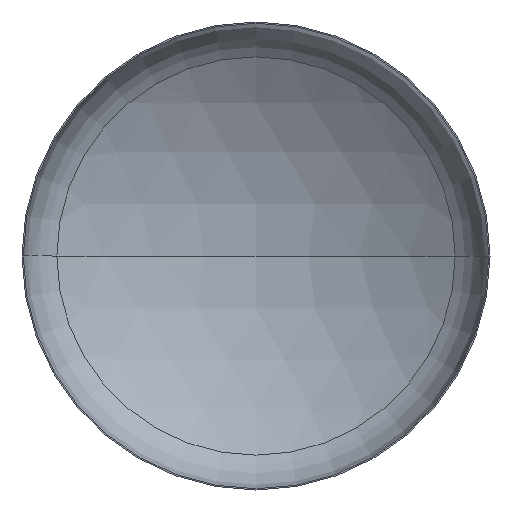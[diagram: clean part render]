
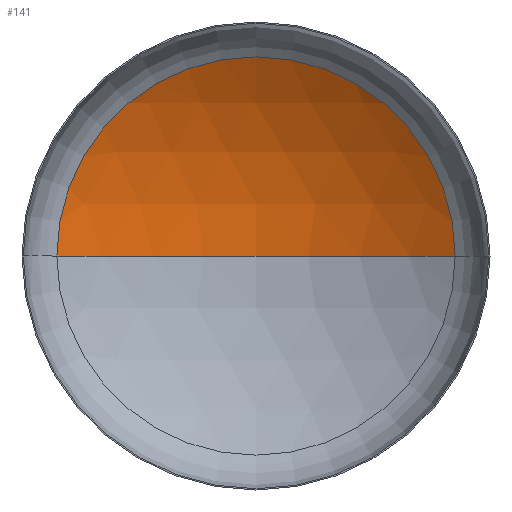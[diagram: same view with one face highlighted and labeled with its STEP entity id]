
A CAD part, front view. The second image highlights one B-rep face of the part: STEP entity #141.
In plain terms, the highlighted spherical face has radius 1200 mm.
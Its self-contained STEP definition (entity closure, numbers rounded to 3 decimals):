
#2 = DIRECTION ( 'NONE',  ( 1., 0., 0. ) ) ;
#5 = EDGE_LOOP ( 'NONE', ( #43, #30, #132 ) ) ;
#6 = DIRECTION ( 'NONE',  ( -1., 0., 0. ) ) ;
#13 = DIRECTION ( 'NONE',  ( 0., 0., -1. ) ) ;
#22 = CARTESIAN_POINT ( 'NONE',  ( 0., -801.367, 0. ) ) ;
#30 = ORIENTED_EDGE ( 'NONE', *, *, #110, .T. ) ;
#33 = VERTEX_POINT ( 'NONE', #293 ) ;
#42 = AXIS2_PLACEMENT_3D ( 'NONE', #387, #281, #232 ) ;
#43 = ORIENTED_EDGE ( 'NONE', *, *, #113, .F. ) ;
#51 = AXIS2_PLACEMENT_3D ( 'NONE', #262, #388, #411 ) ;
#54 = AXIS2_PLACEMENT_3D ( 'NONE', #22, #13, #6 ) ;
#56 = AXIS2_PLACEMENT_3D ( 'NONE', #188, #350, #2 ) ;
#63 = CIRCLE ( 'NONE', #51, 1200. ) ;
#94 = VERTEX_POINT ( 'NONE', #191 ) ;
#109 = EDGE_CURVE ( 'NONE', #133, #33, #268, .T. ) ;
#110 = EDGE_CURVE ( 'NONE', #94, #133, #193, .T. ) ;
#113 = EDGE_CURVE ( 'NONE', #94, #33, #63, .T. ) ;
#132 = ORIENTED_EDGE ( 'NONE', *, *, #109, .T. ) ;
#133 = VERTEX_POINT ( 'NONE', #200 ) ;
#141 = ADVANCED_FACE ( 'NONE', ( #251 ), #365, .F. ) ;
#188 = CARTESIAN_POINT ( 'NONE',  ( 0., 214.757, 0. ) ) ;
#191 = CARTESIAN_POINT ( 'NONE',  ( 0., 398.633, 0. ) ) ;
#193 = CIRCLE ( 'NONE', #54, 1200. ) ;
#200 = CARTESIAN_POINT ( 'NONE',  ( 638.351, 214.757, 0. ) ) ;
#232 = DIRECTION ( 'NONE',  ( -1., 0., 0. ) ) ;
#251 = FACE_OUTER_BOUND ( 'NONE', #5, .T. ) ;
#262 = CARTESIAN_POINT ( 'NONE',  ( 0., -801.367, 0. ) ) ;
#268 = CIRCLE ( 'NONE', #56, 638.351 ) ;
#281 = DIRECTION ( 'NONE',  ( 0., 0., -1. ) ) ;
#293 = CARTESIAN_POINT ( 'NONE',  ( -638.351, 214.757, 0. ) ) ;
#350 = DIRECTION ( 'NONE',  ( 0., -1., 0. ) ) ;
#365 = SPHERICAL_SURFACE ( 'NONE', #42, 1200. ) ;
#387 = CARTESIAN_POINT ( 'NONE',  ( 0., -801.367, 0. ) ) ;
#388 = DIRECTION ( 'NONE',  ( 0., 0., 1. ) ) ;
#411 = DIRECTION ( 'NONE',  ( 1., 0., 0. ) ) ;
